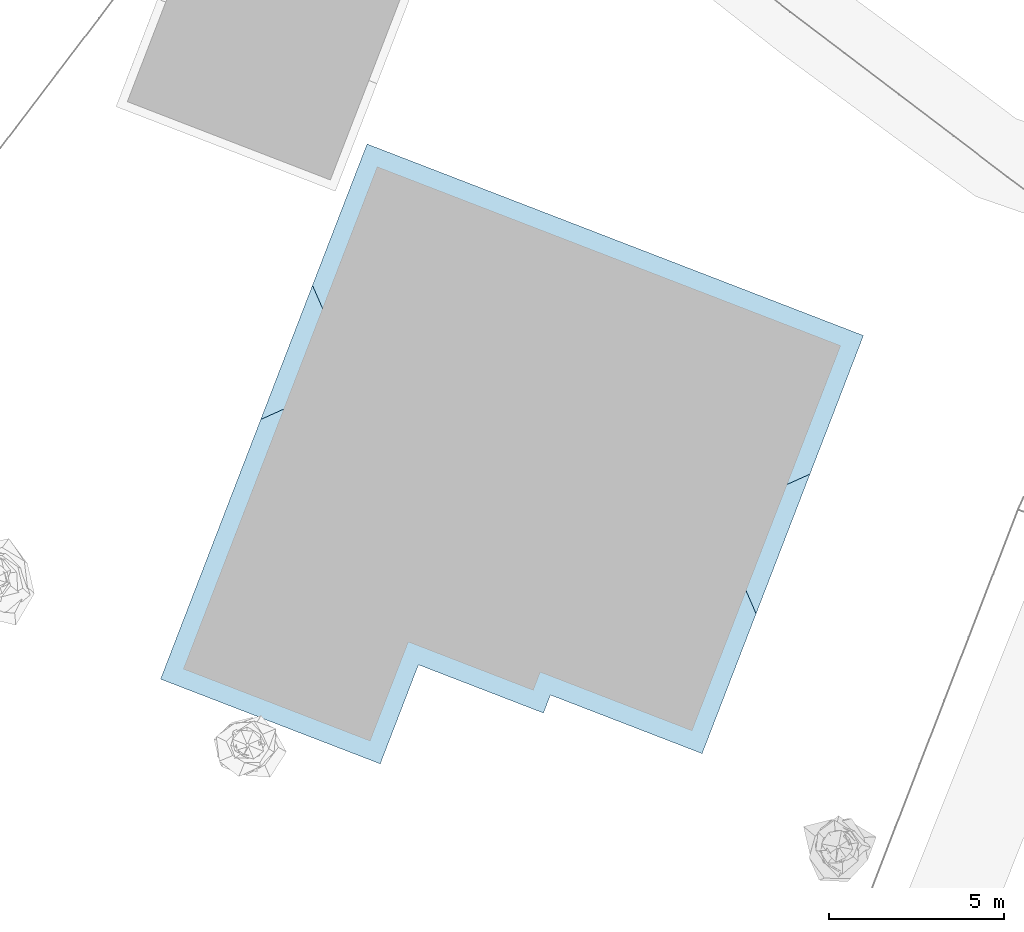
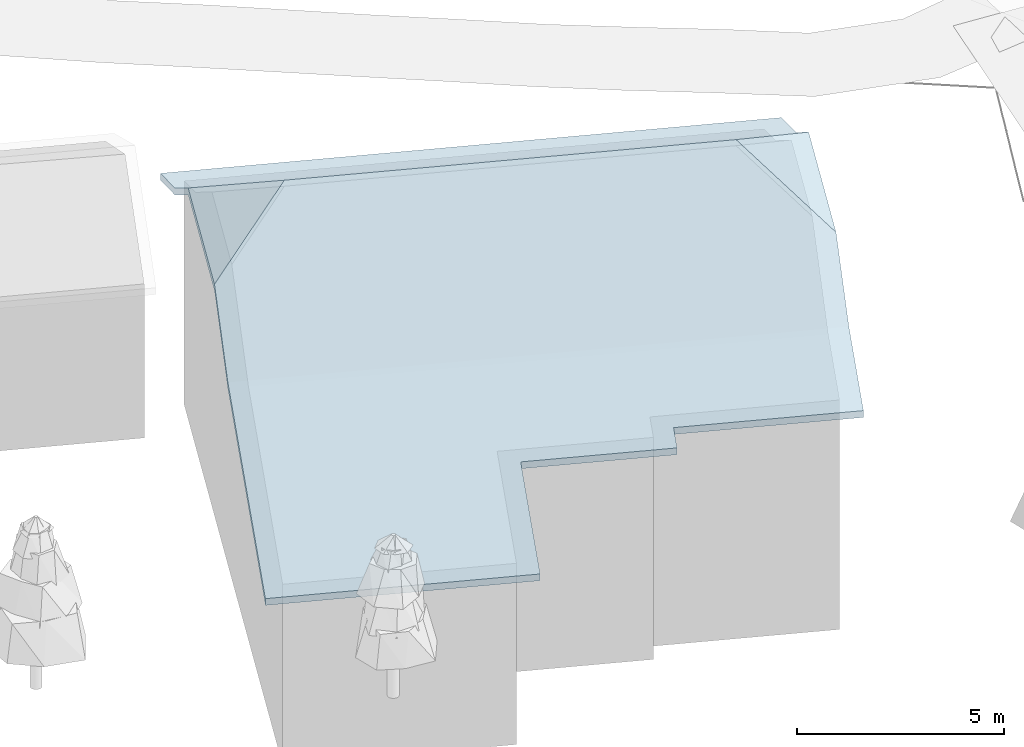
# Not in any storey, part 7 of 88: 1 roof.
"""IFC4 building model written with IfcOpenShell, lengths in metres."""

from ifc_helpers import new_model, si_unit, origin_with_axes, place, context, subcontext, project, spatial, faceted_brep, element, save


model = new_model("IFC4")

# Units and contexts
model_context = context("Model", 3, precision=1e-05, world=origin_with_axes())
body_context = subcontext(model_context, "Body", "Model", "MODEL_VIEW")
ifc_project = project(units=[si_unit("LENGTHUNIT", "METRE"), si_unit("AREAUNIT", "SQUARE_METRE"), si_unit("VOLUMEUNIT", "CUBIC_METRE"), si_unit("PLANEANGLEUNIT", "RADIAN")], contexts=[model_context])

# Sites, building
site_1_placement = place(None, origin_with_axes())
site_1 = spatial("IfcSite", under=ifc_project, at=site_1_placement, Name="CH907857693633", CompositionType="ELEMENT")
site_2_placement = place(None, origin_with_axes())
site_2 = spatial("IfcSite", under=site_1, at=site_2_placement, Name="Buildings", CompositionType="ELEMENT")
building_placement = place(None, origin_with_axes())
building = spatial("IfcBuilding", under=site_2, at=building_placement, Name="Building_7084BE5A", CompositionType="ELEMENT")

# Roof
roof_placement = place(building_placement, origin_with_axes())
element("IfcRoof", 1, at=roof_placement, inside=building, Name="Building_7084BE5A_Roof", PredefinedType="NOTDEFINED", context=body_context, shape_type="Brep", body=[
    faceted_brep([(23.4530000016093, 92.8920000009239, 12.1513877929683), (24.6510000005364, 90.1440000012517, 10.6694877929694), (26.1849999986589, 94.1220000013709, 10.6694877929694), (23.4530000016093, 92.8920000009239, 12.1513877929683), (23.9290000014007, 88.2740000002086, 9.2775877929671), (24.6510000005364, 90.1440000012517, 10.6694877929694), (23.4530000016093, 92.8920000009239, 12.1513877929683), (26.1849999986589, 94.1220000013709, 10.6694877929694), (26.9070000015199, 95.9899999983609, 9.2775877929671), (26.9070000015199, 95.9899999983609, 9.2775877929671), (20.234999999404, 99.7600000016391, 8.72368779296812), (19.8350000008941, 98.7199999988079, 9.2775877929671), (23.4530000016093, 92.8920000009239, 12.1513877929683), (19.8350000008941, 98.7199999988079, 9.2775877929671), (18.1070000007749, 97.1700000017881, 10.7134877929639), (27.7089999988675, 98.0720000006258, 8.1696877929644), (20.6369999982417, 100.800000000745, 8.1696877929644), (20.234999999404, 99.7600000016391, 8.72368779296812), (13.5650000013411, 103.530000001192, 8.1696877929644), (20.234999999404, 99.7600000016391, 8.72368779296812), (20.6369999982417, 100.800000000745, 8.1696877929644), (13.1629999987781, 96.8619999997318, 12.1513877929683), (12.7609999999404, 101.449999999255, 9.2775877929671), (12.0089999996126, 99.5020000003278, 10.7254877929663), (12.7609999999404, 101.449999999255, 9.2775877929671), (13.1629999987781, 96.8619999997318, 12.1513877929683), (18.1070000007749, 97.1700000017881, 10.7134877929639), (13.1629999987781, 96.8619999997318, 12.1513877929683), (12.0089999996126, 99.5020000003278, 10.7254877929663), (10.535000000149, 95.679999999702, 10.7254877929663), (13.1629999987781, 96.8619999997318, 12.1513877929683), (10.535000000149, 95.679999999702, 10.7254877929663), (9.78299999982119, 93.7320000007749, 9.2775877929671), (15.0289999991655, 88.6900000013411, 8.15768779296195), (9.78299999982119, 93.7320000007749, 9.2775877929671), (7.68100000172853, 88.2800000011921, 6.95178779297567), (9.78299999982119, 93.7320000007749, 9.2775877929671), (15.0289999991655, 88.6900000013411, 8.15768779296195), (14.2870000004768, 90.7800000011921, 8.82568779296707), (18.7890000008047, 87.8280000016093, 8.3736877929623), (16.8570000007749, 91.0040000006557, 9.2775877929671), (14.2870000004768, 90.7800000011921, 8.82568779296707), (23.9290000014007, 88.2740000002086, 9.2775877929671), (23.4530000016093, 92.8920000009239, 12.1513877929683), (16.8570000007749, 91.0040000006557, 9.2775877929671), (23.4530000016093, 92.8920000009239, 12.1513877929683), (18.3070000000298, 94.8759999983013, 12.1513877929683), (16.6169999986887, 93.3119999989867, 10.7134877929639), (13.1629999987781, 96.8619999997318, 12.1513877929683), (16.6169999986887, 93.3119999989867, 10.7134877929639), (18.3070000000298, 94.8759999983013, 12.1513877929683), (15.0289999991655, 88.6900000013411, 8.15768779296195), (7.68100000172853, 88.2800000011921, 6.95178779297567), (13.9409999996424, 85.8660000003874, 6.95178779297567), (18.7890000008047, 87.8280000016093, 8.3736877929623), (15.0289999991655, 88.6900000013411, 8.15768779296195), (18.5909999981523, 87.3139999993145, 8.15768779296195), (23.9290000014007, 88.2740000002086, 9.2775877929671), (18.7890000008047, 87.8280000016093, 8.3736877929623), (23.1130000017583, 86.1579999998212, 8.3736877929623), (26.1849999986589, 94.1220000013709, 10.4694877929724), (24.6510000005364, 90.1440000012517, 10.6694877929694), (24.6510000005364, 90.1440000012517, 10.4694877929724), (24.6510000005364, 90.1440000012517, 10.6694877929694), (26.1849999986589, 94.1220000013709, 10.4694877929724), (26.1849999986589, 94.1220000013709, 10.6694877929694), (26.9070000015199, 95.9899999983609, 9.2775877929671), (26.1849999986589, 94.1220000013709, 10.6694877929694), (26.1849999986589, 94.1220000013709, 10.4694877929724), (26.1849999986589, 94.1220000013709, 10.4694877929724), (26.9070000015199, 95.9899999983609, 9.07758779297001), (26.9070000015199, 95.9899999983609, 9.2775877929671), (27.7089999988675, 98.0720000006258, 8.1696877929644), (26.9070000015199, 95.9899999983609, 9.2775877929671), (26.9070000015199, 95.9899999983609, 9.07758779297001), (26.9070000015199, 95.9899999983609, 9.07758779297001), (27.7089999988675, 98.0720000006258, 7.96968779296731), (27.7089999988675, 98.0720000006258, 8.1696877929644), (20.6369999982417, 100.800000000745, 8.06968779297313), (20.6369999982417, 100.800000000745, 7.96968779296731), (13.5650000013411, 103.530000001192, 7.96968779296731), (20.6369999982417, 100.800000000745, 8.06968779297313), (13.5650000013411, 103.530000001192, 8.1696877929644), (20.6369999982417, 100.800000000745, 8.1696877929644), (27.7089999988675, 98.0720000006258, 7.96968779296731), (20.6369999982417, 100.800000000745, 8.06968779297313), (27.7089999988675, 98.0720000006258, 8.1696877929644), (20.6369999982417, 100.800000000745, 8.06968779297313), (27.7089999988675, 98.0720000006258, 7.96968779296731), (20.6369999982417, 100.800000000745, 7.96968779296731), (13.5650000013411, 103.530000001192, 8.1696877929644), (20.6369999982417, 100.800000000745, 8.06968779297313), (13.5650000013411, 103.530000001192, 7.96968779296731), (20.6369999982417, 100.800000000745, 8.06968779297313), (20.6369999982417, 100.800000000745, 8.1696877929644), (27.7089999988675, 98.0720000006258, 8.1696877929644), (13.5650000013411, 103.530000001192, 7.96968779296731), (12.7609999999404, 101.449999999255, 9.07768779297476), (13.5650000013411, 103.530000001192, 8.1696877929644), (12.7609999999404, 101.449999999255, 9.2775877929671), (13.5650000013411, 103.530000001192, 8.1696877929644), (12.7609999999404, 101.449999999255, 9.07768779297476), (12.7609999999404, 101.449999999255, 9.07768779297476), (12.0089999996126, 99.5020000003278, 10.5254877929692), (12.7609999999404, 101.449999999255, 9.2775877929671), (12.0089999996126, 99.5020000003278, 10.7254877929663), (12.7609999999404, 101.449999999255, 9.2775877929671), (12.0089999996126, 99.5020000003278, 10.5254877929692), (12.0089999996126, 99.5020000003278, 10.5254877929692), (10.535000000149, 95.679999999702, 10.5254877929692), (12.0089999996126, 99.5020000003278, 10.7254877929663), (10.535000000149, 95.679999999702, 10.7254877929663), (12.0089999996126, 99.5020000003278, 10.7254877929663), (10.535000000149, 95.679999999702, 10.5254877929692), (9.78299999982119, 93.7320000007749, 9.2775877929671), (10.535000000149, 95.679999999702, 10.5254877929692), (9.78299999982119, 93.7320000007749, 9.07768779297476), (10.535000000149, 95.679999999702, 10.5254877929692), (9.78299999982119, 93.7320000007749, 9.2775877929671), (10.535000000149, 95.679999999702, 10.7254877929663), (7.68100000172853, 88.2800000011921, 6.95178779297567), (9.78299999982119, 93.7320000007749, 9.07768779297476), (7.68100000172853, 88.2800000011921, 6.75378779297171), (9.78299999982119, 93.7320000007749, 9.07768779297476), (7.68100000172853, 88.2800000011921, 6.95178779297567), (9.78299999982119, 93.7320000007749, 9.2775877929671), (7.68100000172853, 88.2800000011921, 6.95178779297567), (13.9409999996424, 85.8660000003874, 6.75378779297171), (13.9409999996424, 85.8660000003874, 6.95178779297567), (13.9409999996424, 85.8660000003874, 6.75378779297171), (7.68100000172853, 88.2800000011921, 6.95178779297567), (7.68100000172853, 88.2800000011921, 6.75378779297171), (15.0289999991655, 88.6900000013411, 7.95768779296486), (13.9409999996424, 85.8660000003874, 6.95178779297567), (13.9409999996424, 85.8660000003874, 6.75378779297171), (13.9409999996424, 85.8660000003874, 6.95178779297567), (15.0289999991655, 88.6900000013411, 7.95768779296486), (15.0289999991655, 88.6900000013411, 8.15768779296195), (15.0289999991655, 88.6900000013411, 8.15768779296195), (18.5909999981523, 87.3139999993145, 7.95768779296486), (18.5909999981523, 87.3139999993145, 8.15768779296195), (18.5909999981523, 87.3139999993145, 7.95768779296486), (15.0289999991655, 88.6900000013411, 8.15768779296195), (15.0289999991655, 88.6900000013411, 7.95768779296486), (18.7890000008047, 87.8280000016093, 8.17368779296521), (18.5909999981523, 87.3139999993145, 8.15768779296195), (18.5909999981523, 87.3139999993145, 7.95768779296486), (18.5909999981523, 87.3139999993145, 8.15768779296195), (18.7890000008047, 87.8280000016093, 8.17368779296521), (18.7890000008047, 87.8280000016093, 8.3736877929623), (18.7890000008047, 87.8280000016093, 8.3736877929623), (23.1130000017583, 86.1579999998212, 8.17368779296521), (23.1130000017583, 86.1579999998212, 8.3736877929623), (23.1130000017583, 86.1579999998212, 8.17368779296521), (18.7890000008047, 87.8280000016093, 8.3736877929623), (18.7890000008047, 87.8280000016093, 8.17368779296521), (24.6510000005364, 90.1440000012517, 10.4694877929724), (23.9290000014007, 88.2740000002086, 9.2775877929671), (23.9290000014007, 88.2740000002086, 9.07758779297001), (23.9290000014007, 88.2740000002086, 9.2775877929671), (24.6510000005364, 90.1440000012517, 10.4694877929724), (24.6510000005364, 90.1440000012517, 10.6694877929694), (23.9290000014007, 88.2740000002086, 9.07758779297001), (23.1130000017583, 86.1579999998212, 8.3736877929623), (23.1130000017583, 86.1579999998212, 8.17368779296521), (23.1130000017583, 86.1579999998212, 8.3736877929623), (23.9290000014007, 88.2740000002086, 9.07758779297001), (23.9290000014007, 88.2740000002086, 9.2775877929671), (23.4530000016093, 92.8920000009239, 11.9513877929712), (26.1849999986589, 94.1220000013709, 10.4694877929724), (24.6510000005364, 90.1440000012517, 10.4694877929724), (23.4530000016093, 92.8920000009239, 11.9513877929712), (24.6510000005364, 90.1440000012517, 10.4694877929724), (23.9290000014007, 88.2740000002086, 9.07758779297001), (23.4530000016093, 92.8920000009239, 11.9513877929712), (26.9070000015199, 95.9899999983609, 9.07758779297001), (26.1849999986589, 94.1220000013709, 10.4694877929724), (27.7089999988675, 98.0720000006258, 7.96968779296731), (26.9070000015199, 95.9899999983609, 9.07758779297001), (20.234999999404, 99.7600000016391, 8.52368779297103), (26.9070000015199, 95.9899999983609, 9.07758779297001), (23.4530000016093, 92.8920000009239, 11.9513877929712), (19.8350000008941, 98.7199999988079, 9.07758779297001), (12.7609999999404, 101.449999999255, 9.07768779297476), (13.5650000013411, 103.530000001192, 7.96968779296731), (20.234999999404, 99.7600000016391, 8.52368779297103), (13.1629999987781, 96.8619999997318, 11.9513877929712), (12.0089999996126, 99.5020000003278, 10.5254877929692), (12.7609999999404, 101.449999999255, 9.07768779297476), (18.1070000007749, 97.1700000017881, 10.5134877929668), (18.3070000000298, 94.8759999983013, 11.9513877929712), (13.1629999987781, 96.8619999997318, 11.9513877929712), (18.3070000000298, 94.8759999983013, 11.9513877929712), (18.1070000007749, 97.1700000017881, 10.5134877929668), (23.4530000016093, 92.8920000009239, 11.9513877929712), (13.1629999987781, 96.8619999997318, 11.9513877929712), (10.535000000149, 95.679999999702, 10.5254877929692), (12.0089999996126, 99.5020000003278, 10.5254877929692), (13.1629999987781, 96.8619999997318, 11.9513877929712), (9.78299999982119, 93.7320000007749, 9.07768779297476), (10.535000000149, 95.679999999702, 10.5254877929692), (15.0289999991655, 88.6900000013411, 7.95768779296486), (7.68100000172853, 88.2800000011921, 6.75378779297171), (9.78299999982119, 93.7320000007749, 9.07768779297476), (18.7890000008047, 87.8280000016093, 8.17368779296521), (15.0289999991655, 88.6900000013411, 7.95768779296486), (14.2870000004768, 90.7800000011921, 8.62568779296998), (23.9290000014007, 88.2740000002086, 9.07758779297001), (18.7890000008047, 87.8280000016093, 8.17368779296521), (16.8570000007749, 91.0040000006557, 9.07758779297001), (23.4530000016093, 92.8920000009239, 11.9513877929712), (16.8570000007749, 91.0040000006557, 9.07758779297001), (16.6169999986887, 93.3119999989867, 10.5134877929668), (9.78299999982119, 93.7320000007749, 9.07768779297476), (13.1629999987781, 96.8619999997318, 11.9513877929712), (16.6169999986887, 93.3119999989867, 10.5134877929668), (15.0289999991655, 88.6900000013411, 7.95768779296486), (13.9409999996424, 85.8660000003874, 6.75378779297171), (7.68100000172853, 88.2800000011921, 6.75378779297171), (18.7890000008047, 87.8280000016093, 8.17368779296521), (18.5909999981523, 87.3139999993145, 7.95768779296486), (15.0289999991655, 88.6900000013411, 7.95768779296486), (23.9290000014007, 88.2740000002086, 9.07758779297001), (23.1130000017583, 86.1579999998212, 8.17368779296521), (18.7890000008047, 87.8280000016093, 8.17368779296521), (26.9070000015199, 95.9899999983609, 9.2775877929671), (27.7089999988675, 98.0720000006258, 8.1696877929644), (20.234999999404, 99.7600000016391, 8.72368779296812), (13.5650000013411, 103.530000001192, 8.1696877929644), (12.7609999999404, 101.449999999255, 9.2775877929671), (20.234999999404, 99.7600000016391, 8.72368779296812), (12.7609999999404, 101.449999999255, 9.07768779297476), (20.234999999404, 99.7600000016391, 8.52368779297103), (19.8350000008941, 98.7199999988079, 9.07758779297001), (20.6369999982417, 100.800000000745, 7.96968779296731), (27.7089999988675, 98.0720000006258, 7.96968779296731), (20.234999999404, 99.7600000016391, 8.52368779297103), (20.234999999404, 99.7600000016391, 8.52368779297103), (13.5650000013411, 103.530000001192, 7.96968779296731), (20.6369999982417, 100.800000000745, 7.96968779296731), (20.234999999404, 99.7600000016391, 8.72368779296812), (12.7609999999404, 101.449999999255, 9.2775877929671), (19.8350000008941, 98.7199999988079, 9.2775877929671), (23.4530000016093, 92.8920000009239, 12.1513877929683), (26.9070000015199, 95.9899999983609, 9.2775877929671), (19.8350000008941, 98.7199999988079, 9.2775877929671), (20.234999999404, 99.7600000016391, 8.52368779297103), (26.9070000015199, 95.9899999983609, 9.07758779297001), (19.8350000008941, 98.7199999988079, 9.07758779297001), (12.7609999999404, 101.449999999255, 9.07768779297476), (19.8350000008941, 98.7199999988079, 9.07758779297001), (18.1070000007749, 97.1700000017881, 10.5134877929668), (18.7890000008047, 87.8280000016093, 8.3736877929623), (23.9290000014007, 88.2740000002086, 9.2775877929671), (16.8570000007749, 91.0040000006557, 9.2775877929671), (9.78299999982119, 93.7320000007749, 9.2775877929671), (16.8570000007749, 91.0040000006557, 9.2775877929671), (16.6169999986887, 93.3119999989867, 10.7134877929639), (9.78299999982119, 93.7320000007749, 9.07768779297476), (16.8570000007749, 91.0040000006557, 9.07758779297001), (14.2870000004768, 90.7800000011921, 8.62568779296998), (23.4530000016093, 92.8920000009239, 11.9513877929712), (23.9290000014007, 88.2740000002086, 9.07758779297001), (16.8570000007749, 91.0040000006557, 9.07758779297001), (16.8570000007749, 91.0040000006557, 9.2775877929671), (23.4530000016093, 92.8920000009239, 12.1513877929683), (16.6169999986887, 93.3119999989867, 10.7134877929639), (13.1629999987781, 96.8619999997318, 12.1513877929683), (9.78299999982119, 93.7320000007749, 9.2775877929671), (16.6169999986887, 93.3119999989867, 10.7134877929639), (16.8570000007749, 91.0040000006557, 9.07758779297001), (9.78299999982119, 93.7320000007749, 9.07768779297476), (16.6169999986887, 93.3119999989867, 10.5134877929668), (18.3070000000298, 94.8759999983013, 11.9513877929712), (23.4530000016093, 92.8920000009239, 11.9513877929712), (16.6169999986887, 93.3119999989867, 10.5134877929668), (16.6169999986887, 93.3119999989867, 10.5134877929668), (13.1629999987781, 96.8619999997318, 11.9513877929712), (18.3070000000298, 94.8759999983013, 11.9513877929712), (19.8350000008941, 98.7199999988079, 9.2775877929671), (12.7609999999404, 101.449999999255, 9.2775877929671), (18.1070000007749, 97.1700000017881, 10.7134877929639), (18.3070000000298, 94.8759999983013, 12.1513877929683), (18.1070000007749, 97.1700000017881, 10.7134877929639), (13.1629999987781, 96.8619999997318, 12.1513877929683), (18.1070000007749, 97.1700000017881, 10.7134877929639), (18.3070000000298, 94.8759999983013, 12.1513877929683), (23.4530000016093, 92.8920000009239, 12.1513877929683), (19.8350000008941, 98.7199999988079, 9.07758779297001), (23.4530000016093, 92.8920000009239, 11.9513877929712), (18.1070000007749, 97.1700000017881, 10.5134877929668), (13.1629999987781, 96.8619999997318, 11.9513877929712), (12.7609999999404, 101.449999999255, 9.07768779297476), (18.1070000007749, 97.1700000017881, 10.5134877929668), (15.0289999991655, 88.6900000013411, 8.15768779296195), (18.7890000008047, 87.8280000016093, 8.3736877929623), (14.2870000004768, 90.7800000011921, 8.82568779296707), (16.8570000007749, 91.0040000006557, 9.2775877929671), (9.78299999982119, 93.7320000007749, 9.2775877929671), (14.2870000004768, 90.7800000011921, 8.82568779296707), (15.0289999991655, 88.6900000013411, 7.95768779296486), (9.78299999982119, 93.7320000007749, 9.07768779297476), (14.2870000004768, 90.7800000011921, 8.62568779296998), (16.8570000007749, 91.0040000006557, 9.07758779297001), (18.7890000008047, 87.8280000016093, 8.17368779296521), (14.2870000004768, 90.7800000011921, 8.62568779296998)], [[[0, 1, 2]], [[3, 4, 5]], [[6, 7, 8]], [[9, 10, 11]], [[12, 13, 14]], [[15, 16, 17]], [[18, 19, 20]], [[21, 22, 23]], [[24, 25, 26]], [[27, 28, 29]], [[30, 31, 32]], [[33, 34, 35]], [[36, 37, 38]], [[39, 40, 41]], [[42, 43, 44]], [[45, 46, 47]], [[48, 49, 50]], [[51, 52, 53]], [[54, 55, 56]], [[57, 58, 59]], [[60, 61, 62]], [[63, 64, 65]], [[66, 67, 68]], [[69, 70, 71]], [[72, 73, 74]], [[75, 76, 77]], [[78, 79, 80]], [[81, 82, 83]], [[84, 85, 86]], [[87, 88, 89]], [[90, 91, 92]], [[93, 94, 95]], [[96, 97, 98]], [[99, 100, 101]], [[102, 103, 104]], [[105, 106, 107]], [[108, 109, 110]], [[111, 112, 113]], [[114, 115, 116]], [[117, 118, 119]], [[120, 121, 122]], [[123, 124, 125]], [[126, 127, 128]], [[129, 130, 131]], [[132, 133, 134]], [[135, 136, 137]], [[138, 139, 140]], [[141, 142, 143]], [[144, 145, 146]], [[147, 148, 149]], [[150, 151, 152]], [[153, 154, 155]], [[156, 157, 158]], [[159, 160, 161]], [[162, 163, 164]], [[165, 166, 167]], [[168, 169, 170]], [[171, 172, 173]], [[174, 175, 176]], [[177, 178, 179]], [[180, 181, 182]], [[183, 184, 185]], [[186, 187, 188]], [[189, 190, 191]], [[192, 193, 194]], [[195, 196, 197]], [[198, 199, 200]], [[201, 202, 203]], [[204, 205, 206]], [[207, 208, 209]], [[210, 211, 212]], [[213, 214, 215]], [[216, 217, 218]], [[219, 220, 221]], [[222, 223, 224]], [[225, 226, 227]], [[228, 229, 230]], [[231, 232, 233]], [[234, 235, 236]], [[237, 238, 239]], [[240, 241, 242]], [[243, 244, 245]], [[246, 247, 248]], [[249, 250, 251]], [[252, 253, 254]], [[255, 256, 257]], [[258, 259, 260]], [[261, 262, 263]], [[264, 265, 266]], [[267, 268, 269]], [[270, 271, 272]], [[273, 274, 275]], [[276, 277, 278]], [[279, 280, 281]], [[282, 283, 284]], [[285, 286, 287]], [[288, 289, 290]], [[291, 292, 293]], [[294, 295, 296]], [[297, 298, 299]], [[300, 301, 302]], [[303, 304, 305]]]),
])

save(model, "model.ifc")
